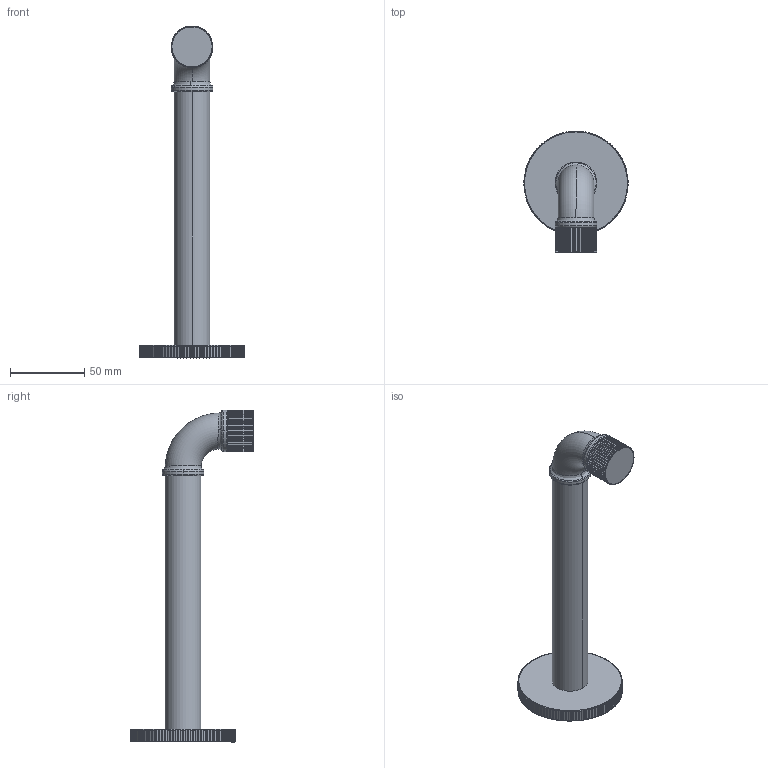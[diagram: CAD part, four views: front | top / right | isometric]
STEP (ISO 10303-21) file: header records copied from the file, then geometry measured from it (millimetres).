
FILE_DESCRIPTION (( 'STEP AP203' ), '1' );
FILE_NAME ('9921N710 x architetti.STEP', '2023-09-18T15:11:46', ( '' ), ( '' ), 'SwSTEP 2.0', 'SolidWorks 2020', '' );
FILE_SCHEMA (( 'CONFIG_CONTROL_DESIGN' ));
Length unit declared in the file: millimetre
Products named in the file (1): 9921N710 x architetti
Bounding box: 69.99 x 82 x 223 mm (x, y, z)
Volume: 143219.7 mm3; surface area: 29866.3 mm2
Topology: 1 solids, 2 shells, 722 faces, 2021 edges, 1308 vertices
Faces by surface type: cylinder 390, torus 262, bspline 57, plane 9, cone 4
Entity records: 30643 total; most frequent: CARTESIAN_POINT 13121, ORIENTED_EDGE 4042, DIRECTION 3372, EDGE_CURVE 2021, AXIS2_PLACEMENT_3D 1489, VERTEX_POINT 1308, CIRCLE 823, B_SPLINE_CURVE_WITH_KNOTS 751
